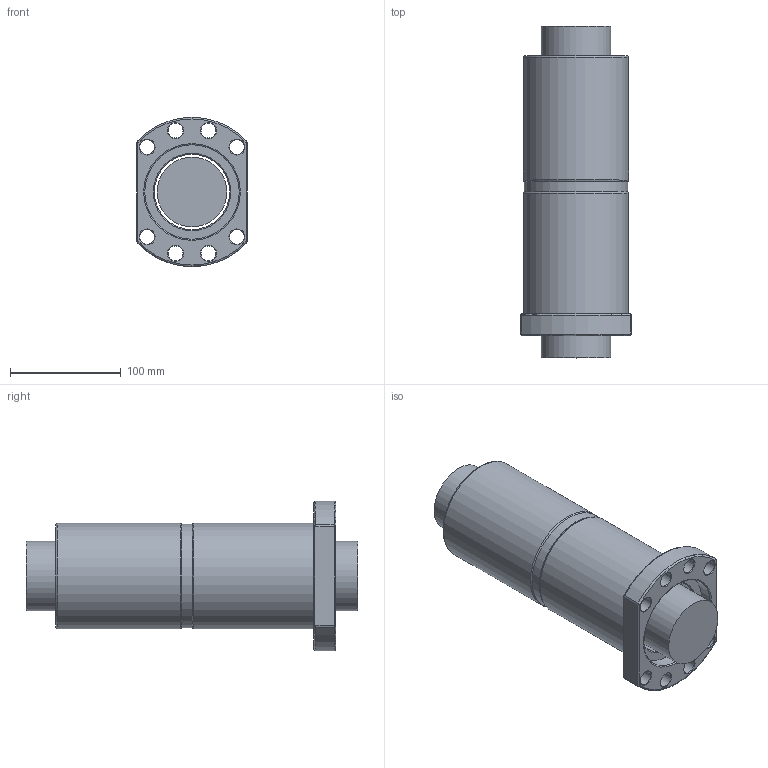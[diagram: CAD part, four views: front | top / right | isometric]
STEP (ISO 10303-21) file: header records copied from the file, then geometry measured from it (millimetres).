
FILE_DESCRIPTION(/* description */ (''),/* implementation_level */ '2;1');
FILE_NAME(/* name */ '6320.prt.step',/* time_stamp */ '2008-12-05T09:28:21+08:00',/* author */ (''),/* organization */ (''),/* preprocessor_version */ 'ST-DEVELOPER v11',/* originating_system */ 'SIEMENS UGS NX 6.0',/* authorisation */ '');
FILE_SCHEMA (('AUTOMOTIVE_DESIGN { 1 0 10303 214 1 1 1 1 }'));
Length unit declared in the file: millimetre
Products named in the file (1): 6320
Bounding box: 100 x 300 x 135 mm (x, y, z)
Volume: 1821813.5 mm3; surface area: 231818.8 mm2
Topology: 4 solids, 4 shells, 75 faces, 166 edges, 104 vertices
Faces by surface type: plane 23, cylinder 21, cone 20, torus 11
Full cylindrical faces by diameter (mm): 13.5 x8, 62.95 x1, 68 x3, 85.3 x4, 94 x1, 95 x2
Entity records: 2073 total; most frequent: CARTESIAN_POINT 526, DIRECTION 322, ORIENTED_EDGE 226, AXIS2_PLACEMENT_3D 149, EDGE_LOOP 148, FACE_BOUND 130, EDGE_CURVE 113, VERTEX_POINT 97
